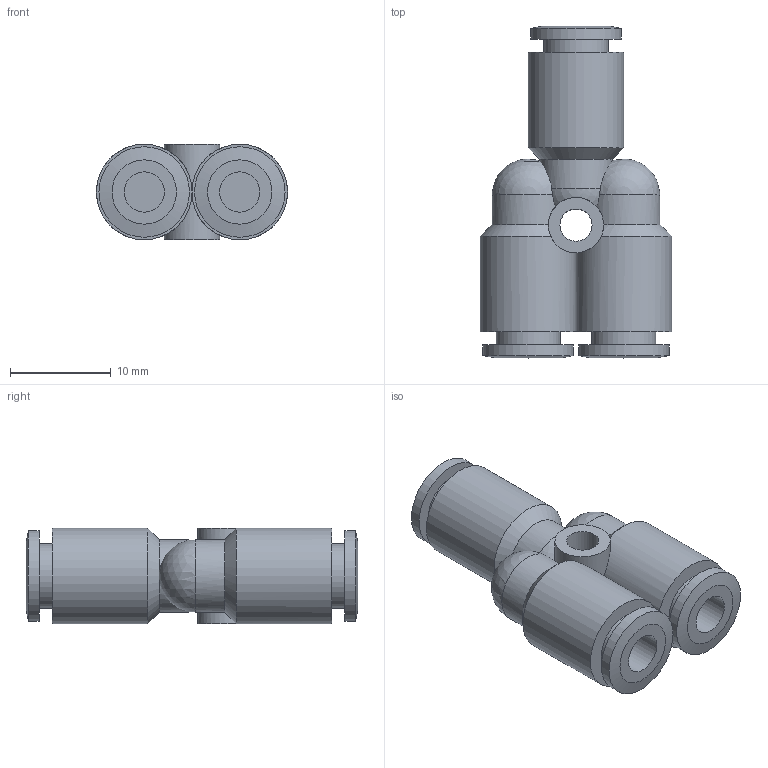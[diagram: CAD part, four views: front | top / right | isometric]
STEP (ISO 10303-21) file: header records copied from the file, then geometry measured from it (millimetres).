
FILE_DESCRIPTION((''),'2;1');
FILE_NAME('C:\Documents and Settings\rivolro1\Documenti\copia di Raccordi\PLASTICA\T23XXXX\T230400.stp','2007-11-02T14:44:12',('Rivolro1'),(''),'Autodesk Inventor 2008','Autodesk Inventor 2008','');
FILE_SCHEMA(('AUTOMOTIVE_DESIGN { 1 0 10303 214 1 1 1 1 }'));
Length unit declared in the file: millimetre
Products named in the file (1): T230400
Bounding box: 19 x 33 x 9.5 mm (x, y, z)
Volume: 2735.5 mm3; surface area: 2406.2 mm2
Topology: 1 solids, 1 shells, 42 faces, 98 edges, 60 vertices
Faces by surface type: cylinder 17, plane 14, cone 6, sphere 4, bspline 1
Full cylindrical faces by diameter (mm): 4 x3, 5.5 x2, 6.4 x3, 7.2 x1, 9 x3, 9.5 x3
Entity records: 1339 total; most frequent: CARTESIAN_POINT 444, DIRECTION 182, ORIENTED_EDGE 140, AXIS2_PLACEMENT_3D 90, EDGE_LOOP 71, EDGE_CURVE 70, VERTEX_POINT 56, CIRCLE 48
